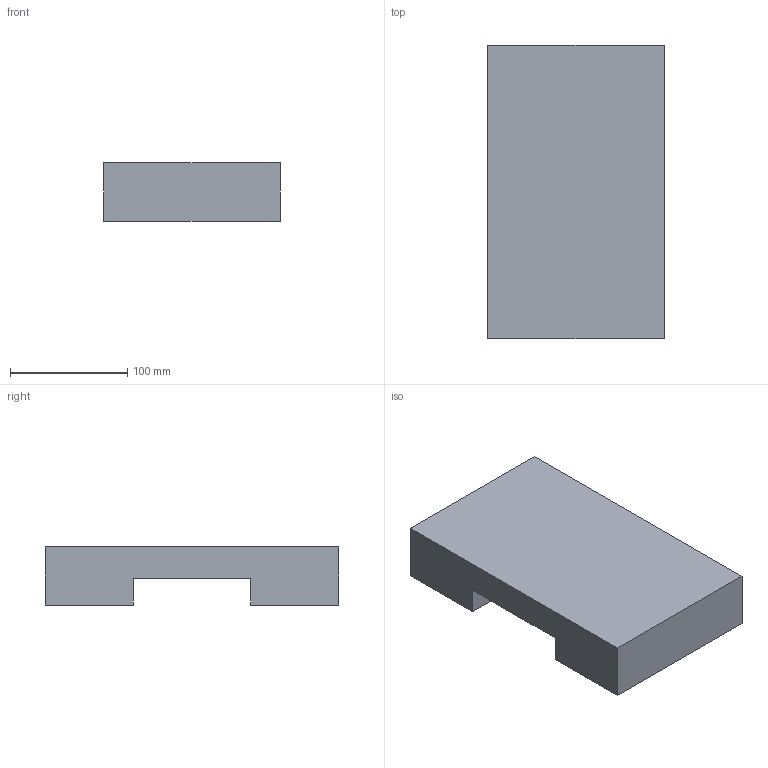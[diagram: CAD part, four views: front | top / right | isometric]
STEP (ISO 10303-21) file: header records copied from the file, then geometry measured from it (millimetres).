
FILE_DESCRIPTION(/* description */ (''),/* implementation_level */ '2;1');
FILE_NAME(/* name */ 'kinoshita_baobabland_k148-153_jointparts',/* time_stamp */ '2026-04-13T20:20:27+09:00',/* author */ (''),/* organization */ (''),/* preprocessor_version */ 'ST-DEVELOPER v16.5',/* originating_system */ '',/* authorisation */ '');
FILE_SCHEMA (('AUTOMOTIVE_DESIGN'));
Length unit declared in the file: millimetre
Products named in the file (1): Document
Bounding box: 150 x 250 x 49.5 mm (x, y, z)
Volume: 1518750 mm3; surface area: 116850 mm2
Topology: 1 solids, 1 shells, 10 faces, 24 edges, 16 vertices
Faces by surface type: plane 10
Entity records: 273 total; most frequent: CARTESIAN_POINT 76, ORIENTED_EDGE 48, EDGE_CURVE 24, B_SPLINE_CURVE_WITH_KNOTS 24, VERTEX_POINT 16, DIRECTION 14, AXIS2_PLACEMENT_3D 12, ADVANCED_FACE 10
